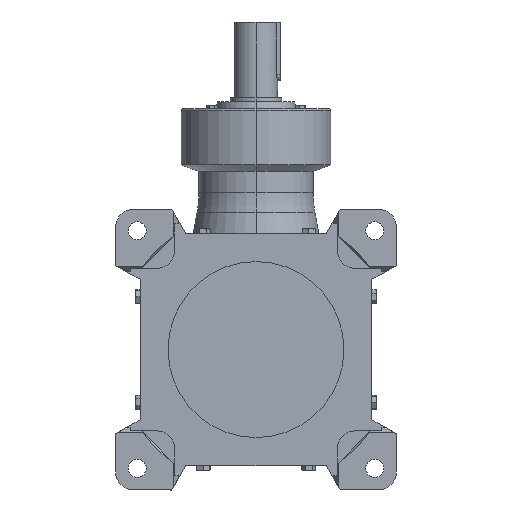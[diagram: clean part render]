
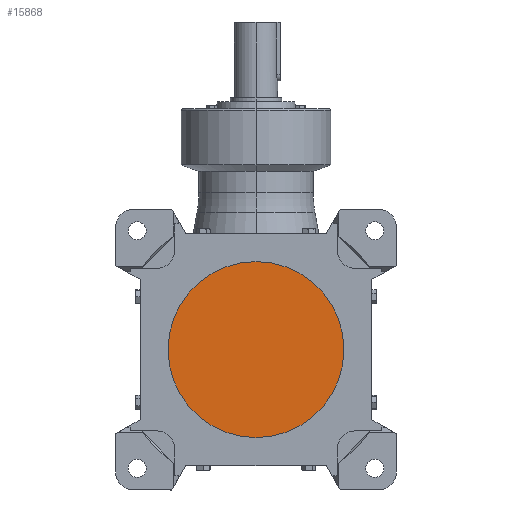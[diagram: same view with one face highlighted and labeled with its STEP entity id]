
A CAD part, front view. The second image highlights one B-rep face of the part: STEP entity #15868.
In plain terms, the highlighted planar face has unit normal (0, -1, 0).
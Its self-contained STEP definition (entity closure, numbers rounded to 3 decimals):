
#166 = CARTESIAN_POINT ( 'NONE',  ( 0., -172., -122.188 ) ) ;
#1723 = CARTESIAN_POINT ( 'NONE',  ( 0., -172., 0. ) ) ;
#1728 = EDGE_LOOP ( 'NONE', ( #5700, #16985 ) ) ;
#1844 = CARTESIAN_POINT ( 'NONE',  ( 0., -172., 122.188 ) ) ;
#2701 = DIRECTION ( 'NONE',  ( 0., -1., 0. ) ) ;
#3109 = DIRECTION ( 'NONE',  ( 0., 0., -1. ) ) ;
#4795 = EDGE_CURVE ( 'NONE', #14864, #15400, #9239, .T. ) ;
#5700 = ORIENTED_EDGE ( 'NONE', *, *, #4795, .T. ) ;
#8794 = AXIS2_PLACEMENT_3D ( 'NONE', #13672, #2701, #15021 ) ;
#8822 = AXIS2_PLACEMENT_3D ( 'NONE', #13297, #17282, #13116 ) ;
#8902 = CIRCLE ( 'NONE', #8794, 122.188 ) ;
#9239 = CIRCLE ( 'NONE', #10547, 122.188 ) ;
#10547 = AXIS2_PLACEMENT_3D ( 'NONE', #1723, #11427, #3109 ) ;
#10988 = FACE_OUTER_BOUND ( 'NONE', #1728, .T. ) ;
#11427 = DIRECTION ( 'NONE',  ( 0., -1., 0. ) ) ;
#13116 = DIRECTION ( 'NONE',  ( 0., 0., -1. ) ) ;
#13297 = CARTESIAN_POINT ( 'NONE',  ( 0., -172., 0. ) ) ;
#13362 = EDGE_CURVE ( 'NONE', #15400, #14864, #8902, .T. ) ;
#13672 = CARTESIAN_POINT ( 'NONE',  ( 0., -172., 0. ) ) ;
#14864 = VERTEX_POINT ( 'NONE', #166 ) ;
#15021 = DIRECTION ( 'NONE',  ( 0., 0., -1. ) ) ;
#15400 = VERTEX_POINT ( 'NONE', #1844 ) ;
#15868 = ADVANCED_FACE ( 'NONE', ( #10988 ), #15968, .T. ) ;
#15968 = PLANE ( 'NONE',  #8822 ) ;
#16985 = ORIENTED_EDGE ( 'NONE', *, *, #13362, .T. ) ;
#17282 = DIRECTION ( 'NONE',  ( 0., -1., 0. ) ) ;
